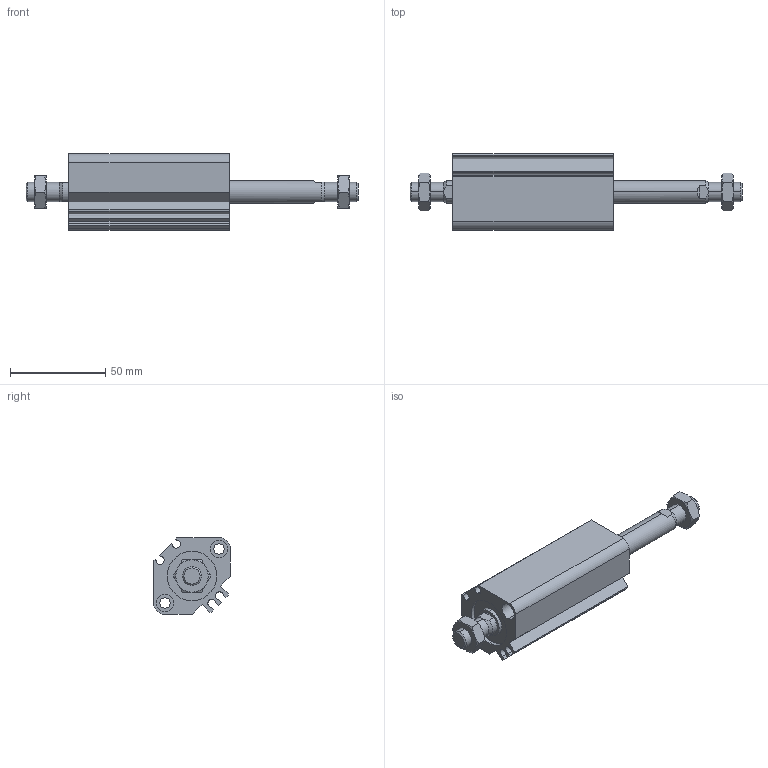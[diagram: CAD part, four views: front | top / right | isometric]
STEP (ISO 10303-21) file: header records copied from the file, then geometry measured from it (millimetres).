
FILE_DESCRIPTION (( 'STEP AP203' ), '1' );
FILE_NAME ('CCMB25-45M-P.STEP', '2020-08-10T11:30:02', ( '' ), ( '' ), 'SwSTEP 2.0', 'SolidWorks 2019', '' );
FILE_SCHEMA (( 'CONFIG_CONTROL_DESIGN' ));
Length unit declared in the file: millimetre
Products named in the file (1): CCMB25-45M-P
Bounding box: 174 x 40 x 40 mm (x, y, z)
Volume: 100034.3 mm3; surface area: 37976.7 mm2
Topology: 4 solids, 4 shells, 166 faces, 384 edges, 240 vertices
Faces by surface type: plane 66, cylinder 56, cone 44
Entity records: 5403 total; most frequent: CARTESIAN_POINT 1543, DIRECTION 806, ORIENTED_EDGE 768, EDGE_CURVE 384, AXIS2_PLACEMENT_3D 319, VERTEX_POINT 240, EDGE_LOOP 190, VECTOR 168
